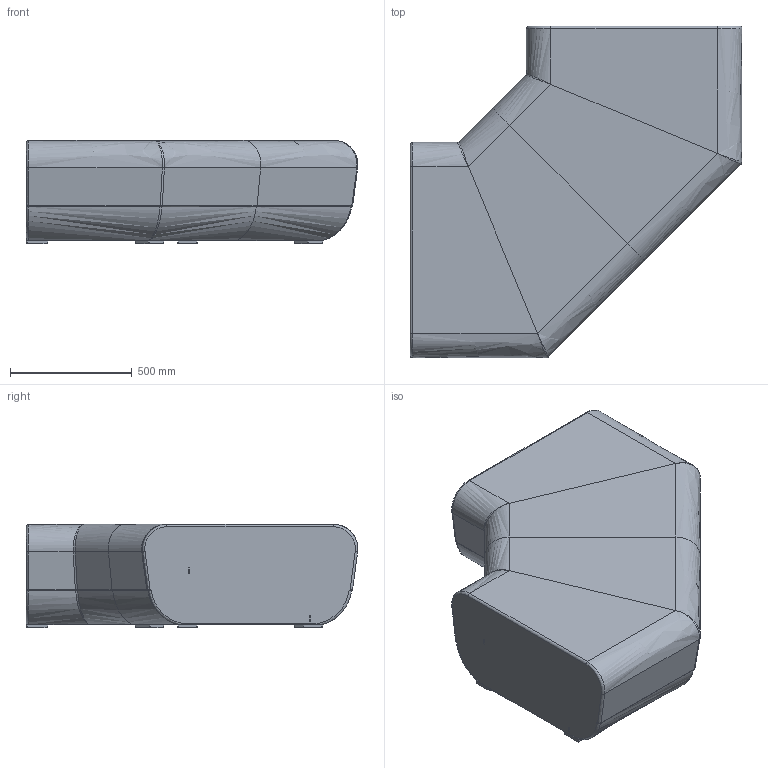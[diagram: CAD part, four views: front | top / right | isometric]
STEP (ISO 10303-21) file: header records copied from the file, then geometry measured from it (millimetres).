
FILE_DESCRIPTION(/* description */ (''),/* implementation_level */ '2;1');
FILE_NAME(/* name */ 'OPBEC4~1',/* time_stamp */ '2015-09-29T08:51:19+02:00',/* author */ (''),/* organization */ (''),/* preprocessor_version */ 'ST-DEVELOPER v15',/* originating_system */ '',/* authorisation */ '');
FILE_SCHEMA (('CONFIG_CONTROL_DESIGN'));
Length unit declared in the file: millimetre
Products named in the file (1): Document
Bounding box: 1363.51 x 1363.01 x 424 mm (x, y, z)
Volume: 506323.8 mm3; surface area: 4333818.5 mm2
Topology: 6 solids, 12 shells, 138 faces, 359 edges, 237 vertices
Faces by surface type: bspline 108, plane 30
Entity records: 4802 total; most frequent: CARTESIAN_POINT 2867, ORIENTED_EDGE 624, EDGE_CURVE 352, VERTEX_POINT 232, ADVANCED_FACE 138, FACE_OUTER_BOUND 138, EDGE_LOOP 138, B_SPLINE_CURVE_WITH_KNOTS 86
